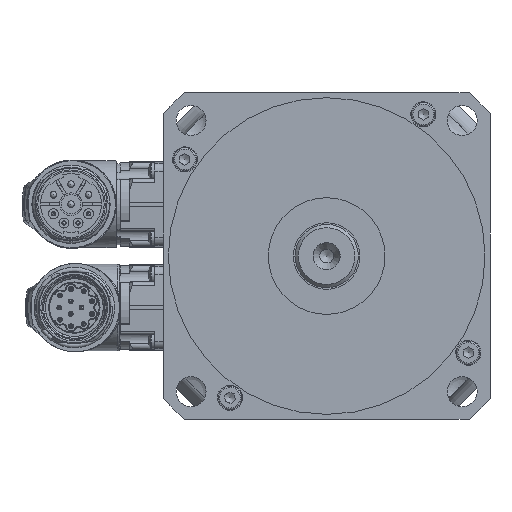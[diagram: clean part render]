
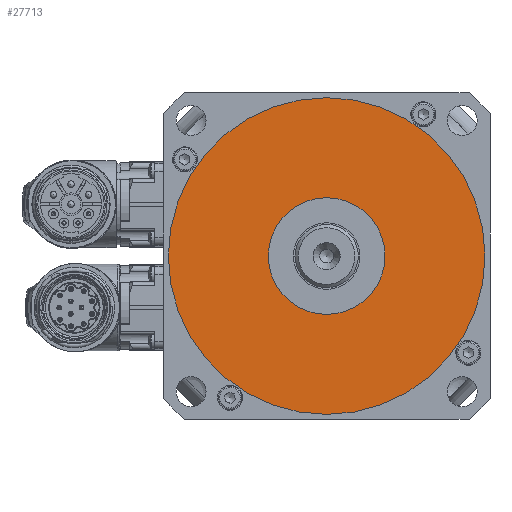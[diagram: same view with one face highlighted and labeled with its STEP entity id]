
A CAD part, left-side view. The second image highlights one B-rep face of the part: STEP entity #27713.
In plain terms, the highlighted planar face has unit normal (-1, 0, 0).
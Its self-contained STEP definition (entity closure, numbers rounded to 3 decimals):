
#1260=FACE_BOUND('',#9111,.T.);
#7330=FACE_OUTER_BOUND('',#9110,.T.);
#9110=EDGE_LOOP('',(#19532));
#9111=EDGE_LOOP('',(#19533));
#11340=CIRCLE('',#29742,47.5);
#11341=CIRCLE('',#29743,17.5);
#12974=VERTEX_POINT('',#41348);
#12975=VERTEX_POINT('',#41350);
#15525=EDGE_CURVE('',#12974,#12974,#11340,.T.);
#15526=EDGE_CURVE('',#12975,#12975,#11341,.T.);
#19532=ORIENTED_EDGE('',*,*,#15525,.T.);
#19533=ORIENTED_EDGE('',*,*,#15526,.F.);
#27208=PLANE('',#29741);
#27713=ADVANCED_FACE('',(#7330,#1260),#27208,.F.);
#29741=AXIS2_PLACEMENT_3D('',#41347,#33283,#33284);
#29742=AXIS2_PLACEMENT_3D('',#41349,#33285,#33286);
#29743=AXIS2_PLACEMENT_3D('',#41351,#33287,#33288);
#33283=DIRECTION('center_axis',(1.,0.,0.));
#33284=DIRECTION('ref_axis',(0.,0.,-1.));
#33285=DIRECTION('center_axis',(-1.,0.,0.));
#33286=DIRECTION('ref_axis',(0.,0.,1.));
#33287=DIRECTION('center_axis',(-1.,0.,0.));
#33288=DIRECTION('ref_axis',(0.,1.,0.));
#41347=CARTESIAN_POINT('Origin',(-37.394,47.5,0.));
#41348=CARTESIAN_POINT('',(-37.394,47.5,0.));
#41349=CARTESIAN_POINT('Origin',(-37.394,0.,0.));
#41350=CARTESIAN_POINT('',(-37.394,-17.5,0.));
#41351=CARTESIAN_POINT('Origin',(-37.394,0.,
0.));
